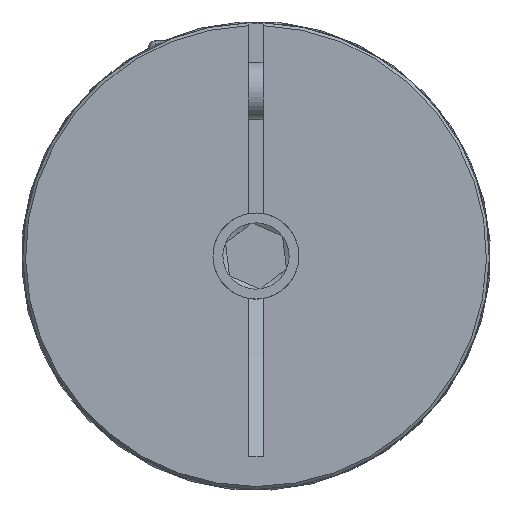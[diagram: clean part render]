
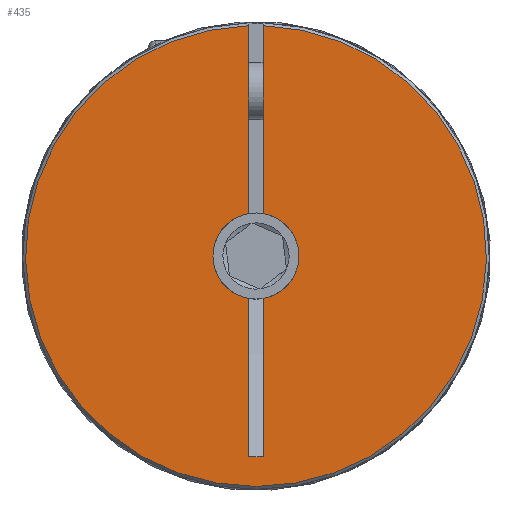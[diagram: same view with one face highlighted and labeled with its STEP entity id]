
A CAD part, left-side view. The second image highlights one B-rep face of the part: STEP entity #435.
In plain terms, the highlighted planar face has unit normal (-1, 0, 0) as drawn and (1, 0, 0) by its records, which use the part's own axes.
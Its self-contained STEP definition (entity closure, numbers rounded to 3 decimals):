
#435 = ADVANCED_FACE( '', ( #942 ), #943, .T. );
#942 = FACE_OUTER_BOUND( '', #1616, .T. );
#943 = PLANE( '', #1617 );
#1616 = EDGE_LOOP( '', ( #2493, #2494, #2495, #2496, #2497, #2498, #2499, #2500 ) );
#1617 = AXIS2_PLACEMENT_3D( '', #2501, #2502, #2503 );
#2493 = ORIENTED_EDGE( '', *, *, #3678, .F. );
#2494 = ORIENTED_EDGE( '', *, *, #3679, .T. );
#2495 = ORIENTED_EDGE( '', *, *, #3680, .T. );
#2496 = ORIENTED_EDGE( '', *, *, #3681, .T. );
#2497 = ORIENTED_EDGE( '', *, *, #3482, .T. );
#2498 = ORIENTED_EDGE( '', *, *, #3682, .T. );
#2499 = ORIENTED_EDGE( '', *, *, #3495, .F. );
#2500 = ORIENTED_EDGE( '', *, *, #3683, .T. );
#2501 = CARTESIAN_POINT( '', ( 20., 0., 16.25 ) );
#2502 = DIRECTION( '', ( 1., 0., 0. ) );
#2503 = DIRECTION( '', ( 0., 0., -1. ) );
#3482 = EDGE_CURVE( '', #4004, #4006, #4008, .T. );
#3495 = EDGE_CURVE( '', #4028, #4029, #4030, .T. );
#3678 = EDGE_CURVE( '', #4327, #4328, #4329, .T. );
#3679 = EDGE_CURVE( '', #4327, #4330, #4331, .T. );
#3680 = EDGE_CURVE( '', #4330, #4332, #4333, .T. );
#3681 = EDGE_CURVE( '', #4332, #4004, #4334, .T. );
#3682 = EDGE_CURVE( '', #4006, #4029, #4335, .F. );
#3683 = EDGE_CURVE( '', #4028, #4328, #4336, .T. );
#4004 = VERTEX_POINT( '', #4760 );
#4006 = VERTEX_POINT( '', #4763 );
#4008 = LINE( '', #4765, #4766 );
#4028 = VERTEX_POINT( '', #4786 );
#4029 = VERTEX_POINT( '', #4787 );
#4030 = LINE( '', #4788, #4789 );
#4327 = VERTEX_POINT( '', #5164 );
#4328 = VERTEX_POINT( '', #5165 );
#4329 = LINE( '', #5166, #5167 );
#4330 = VERTEX_POINT( '', #5168 );
#4331 = CIRCLE( '', #5169, 16.05 );
#4332 = VERTEX_POINT( '', #5170 );
#4333 = LINE( '', #5171, #5172 );
#4334 = CIRCLE( '', #5173, 3. );
#4335 = LINE( '', #5174, #5175 );
#4336 = CIRCLE( '', #5176, 3. );
#4760 = CARTESIAN_POINT( '', ( 20., -2.958, -0.5 ) );
#4763 = CARTESIAN_POINT( '', ( 20., -13.976, -0.5 ) );
#4765 = CARTESIAN_POINT( '', ( 20., 0., -0.5 ) );
#4766 = VECTOR( '', #5767, 1000. );
#4786 = CARTESIAN_POINT( '', ( 20., -2.958, 0.5 ) );
#4787 = CARTESIAN_POINT( '', ( 20., -13.976, 0.5 ) );
#4788 = CARTESIAN_POINT( '', ( 20., 0., 0.5 ) );
#4789 = VECTOR( '', #5789, 1000. );
#5164 = CARTESIAN_POINT( '', ( 20., 16.042, 0.5 ) );
#5165 = CARTESIAN_POINT( '', ( 20., 2.958, 0.5 ) );
#5166 = CARTESIAN_POINT( '', ( 20., 0., 0.5 ) );
#5167 = VECTOR( '', #6091, 1000. );
#5168 = CARTESIAN_POINT( '', ( 20., 16.042, -0.5 ) );
#5169 = AXIS2_PLACEMENT_3D( '', #6092, #6093, #6094 );
#5170 = CARTESIAN_POINT( '', ( 20., 2.958, -0.5 ) );
#5171 = CARTESIAN_POINT( '', ( 20., 0., -0.5 ) );
#5172 = VECTOR( '', #6095, 1000. );
#5173 = AXIS2_PLACEMENT_3D( '', #6096, #6097, #6098 );
#5174 = CARTESIAN_POINT( '', ( 20., -13.976, 0.5 ) );
#5175 = VECTOR( '', #6099, 1000. );
#5176 = AXIS2_PLACEMENT_3D( '', #6100, #6101, #6102 );
#5767 = DIRECTION( '', ( 0., -1., 0. ) );
#5789 = DIRECTION( '', ( 0., -1., 0. ) );
#6091 = DIRECTION( '', ( 0., -1., 0. ) );
#6092 = CARTESIAN_POINT( '', ( 20., 0., 0. ) );
#6093 = DIRECTION( '', ( 1., 0., 0. ) );
#6094 = DIRECTION( '', ( 0., 0., -1. ) );
#6095 = DIRECTION( '', ( 0., -1., 0. ) );
#6096 = CARTESIAN_POINT( '', ( 20., 0., 0. ) );
#6097 = DIRECTION( '', ( -1., 0., 0. ) );
#6098 = DIRECTION( '', ( 0., 0., 1. ) );
#6099 = DIRECTION( '', ( 0., 0., -1. ) );
#6100 = CARTESIAN_POINT( '', ( 20., 0., 0. ) );
#6101 = DIRECTION( '', ( -1., 0., 0. ) );
#6102 = DIRECTION( '', ( 0., 0., 1. ) );
